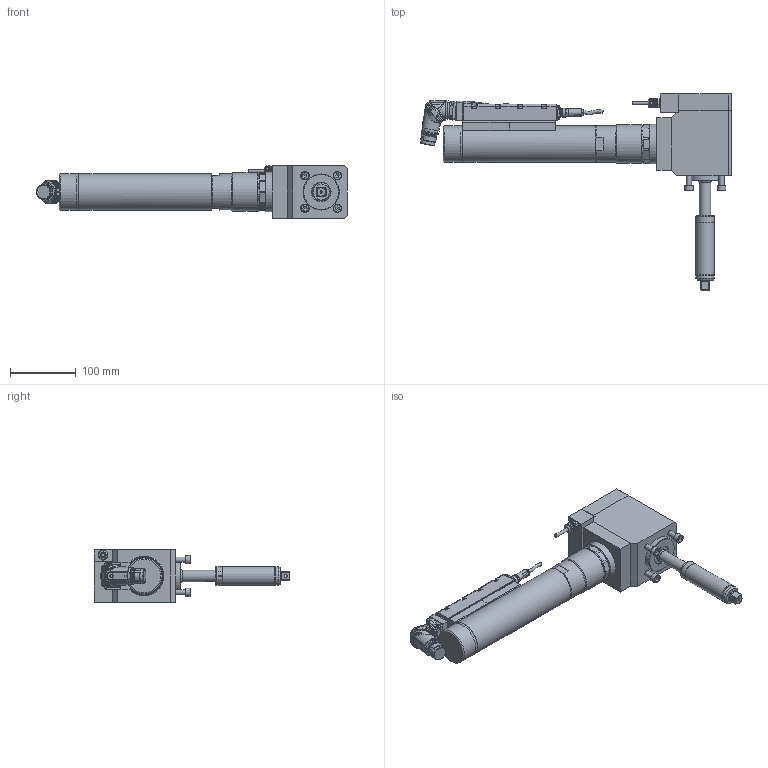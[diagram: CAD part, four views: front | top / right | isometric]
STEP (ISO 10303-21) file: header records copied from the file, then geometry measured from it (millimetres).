
FILE_DESCRIPTION (( 'STEP AP214' ), '1' );
FILE_NAME ('70082521_ESX206AWDX250-140.STEP', '2016-11-15T07:37:01', ( 'admin' ), ( '' ), 'SwSTEP 2.0', 'SolidWorks 2014', '' );
FILE_SCHEMA (( 'AUTOMOTIVE_DESIGN' ));
Length unit declared in the file: millimetre
Products named in the file (10): 70057493_4; 70057493_3; 70057493_2; 70082303; 70082521_ESX206AWDX250-140; 7002049_3; 70082402; 70082303_ESX206_Standard_Winkel; 70082293_2; 70057493_Standard_winkel
Assembly tree (9 placements, depth 4):
  70082521_ESX206AWDX250-140
    70082303_ESX206_Standard_Winkel
      70082303
      70057493_Standard_winkel
        70057493_2
        70057493_3
        70057493_4
      70082293_2
    70082402
    7002049_3
Bounding box: 472.86 x 298 x 80 mm (x, y, z)
Volume: 2221912.3 mm3; surface area: 212595.7 mm2
Topology: 11 solids, 12 shells, 2061 faces, 5301 edges, 3428 vertices
Faces by surface type: plane 1019, cylinder 508, bspline 263, cone 211, torus 57, sphere 3
Full cylindrical faces by diameter (mm): 0.5 x7, 0.57 x14, 1.6 x1, 2 x3, 3 x4, 4.2 x6, 4.5 x1, 4.9 x2, 5 x19, 5.5 x12, 6 x1, 8 x4, 8.459 x2, 9 x2, 11.08 x1, 12.3 x1, 13 x4, 14 x2, 14.5 x2, 16.84 x1, 17.3 x1, 17.4 x1, 17.5 x1, 19.2 x1, 20 x2, 21.15 x1, 21.5 x1, 21.7 x1, 22 x1, 22.3 x1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
Entity records: 74357 total; most frequent: CARTESIAN_POINT 25922, ORIENTED_EDGE 9858, DIRECTION 8561, EDGE_CURVE 4929, VERTEX_POINT 3321, AXIS2_PLACEMENT_3D 3119, EDGE_LOOP 2500, VECTOR 2323
